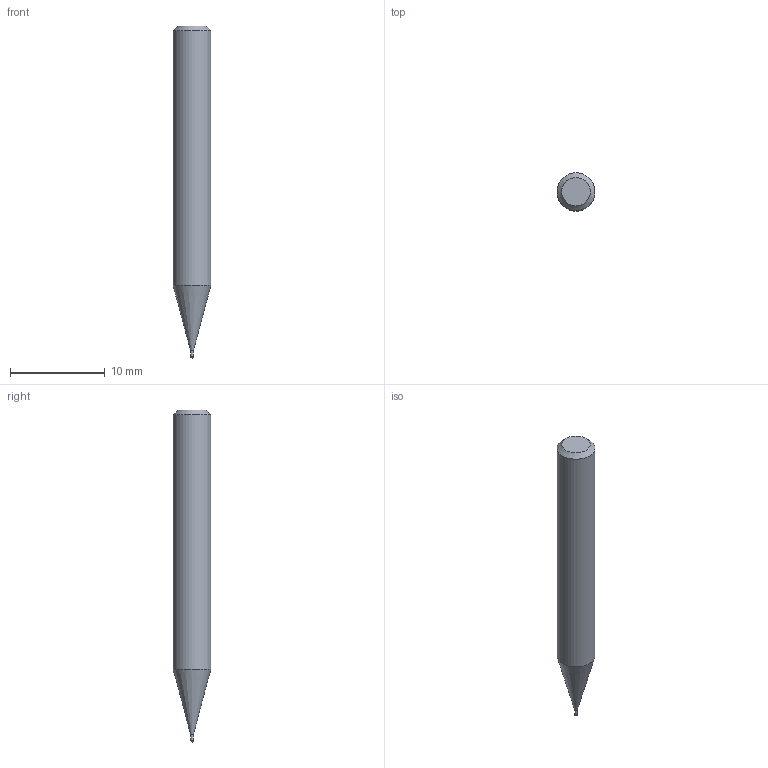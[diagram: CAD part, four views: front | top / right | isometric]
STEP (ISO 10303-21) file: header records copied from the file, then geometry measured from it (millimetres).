
FILE_DESCRIPTION((''),'2;1');
FILE_NAME('C:\Users\nsx150\AppData\Local\Temp\Mastercam 2021\QT8KEW0Y7J\TEMP.step','2021-04-23T11:20:24',(''),(''),'STEP Write','Mastercam 2021 ... CNC Software, Inc.','');
FILE_SCHEMA(('AUTOMOTIVE_DESIGN'));
Length unit declared in the file: millimetre
Products named in the file (1): None
Bounding box: 4 x 4 x 35 mm (x, y, z)
Volume: 373 mm3; surface area: 400.8 mm2
Topology: 2 solids, 2 shells, 9 faces, 14 edges, 8 vertices
Faces by surface type: plane 3, cylinder 3, cone 2, sphere 1
Full cylindrical faces by diameter (mm): 0.28 x1, 0.3 x1, 4 x1
Entity records: 211 total; most frequent: DIRECTION 36, CARTESIAN_POINT 25, AXIS2_PLACEMENT_3D 18, ORIENTED_EDGE 14, EDGE_LOOP 14, STYLED_ITEM 12, ADVANCED_FACE 9, FACE_BOUND 8
